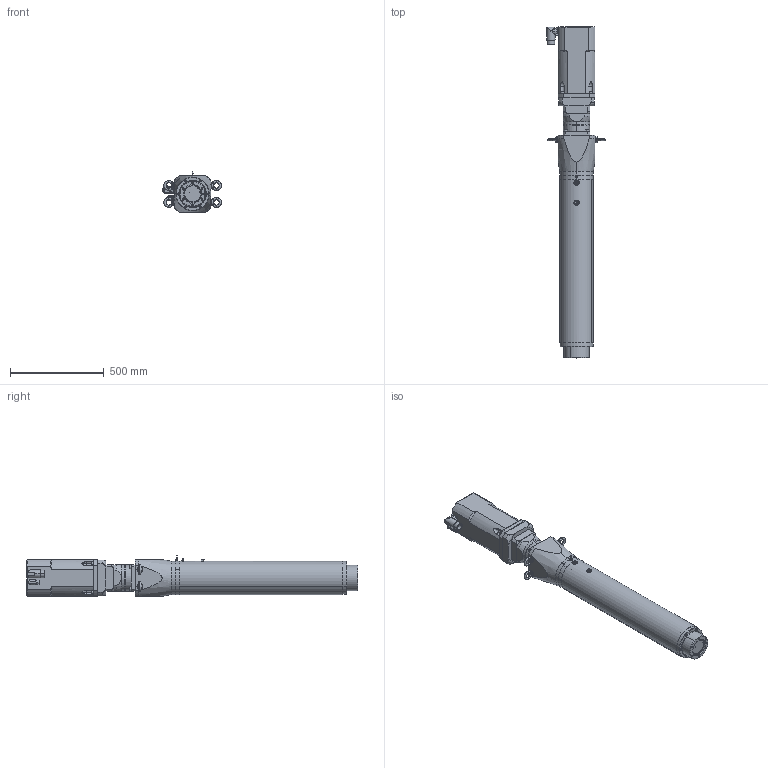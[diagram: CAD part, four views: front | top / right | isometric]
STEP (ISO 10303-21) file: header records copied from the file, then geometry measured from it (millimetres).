
FILE_DESCRIPTION (( 'STEP AP203' ), '1' );
FILE_NAME ('LN5I1000-055-020HG.STEP', '2018-01-30T10:13:05', ( '' ), ( '' ), 'SwSTEP 2.0', 'SolidWorks 2016', '' );
FILE_SCHEMA (( 'CONFIG_CONTROL_DESIGN' ));
Length unit declared in the file: millimetre
Products named in the file (1): LN5I1000-055-020HG
Bounding box: 313 x 1771 x 215.89 mm (x, y, z)
Volume: 37506572.8 mm3; surface area: 2700744.4 mm2
Topology: 40 solids, 40 shells, 3051 faces, 7763 edges, 4973 vertices
Faces by surface type: plane 2250, cylinder 444, cone 199, torus 82, bspline 74, sphere 2
Entity records: 96085 total; most frequent: CARTESIAN_POINT 22655, ORIENTED_EDGE 15242, DIRECTION 14535, EDGE_CURVE 7621, LINE 6165, VECTOR 6165, VERTEX_POINT 4973, AXIS2_PLACEMENT_3D 4185
